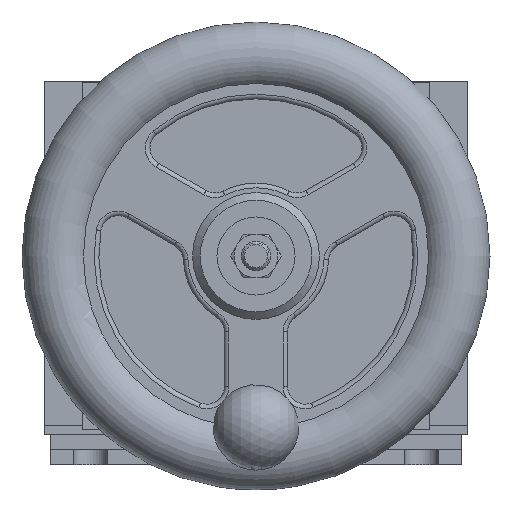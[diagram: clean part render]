
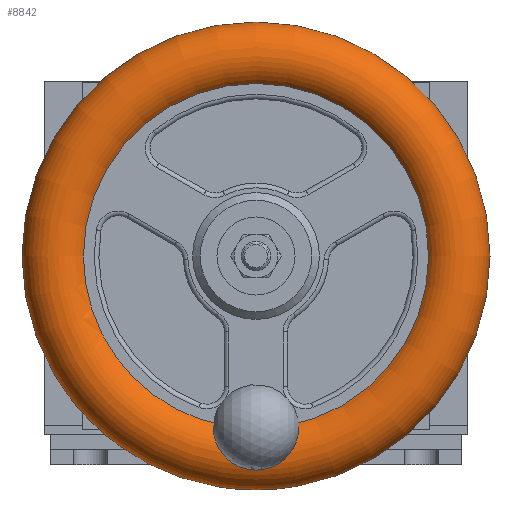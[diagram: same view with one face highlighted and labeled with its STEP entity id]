
A CAD part, front view. The second image highlights one B-rep face of the part: STEP entity #8842.
In plain terms, the highlighted toroidal (fillet/blend) face has major radius 65.088 mm and minor radius 11.113 mm.
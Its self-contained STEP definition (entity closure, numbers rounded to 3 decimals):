
#43=TOROIDAL_SURFACE('',#9719,65.088,11.113);
#96=B_SPLINE_CURVE_WITH_KNOTS('',3,(#14802,#14803,#14804,#14805),
 .UNSPECIFIED.,.F.,.F.,(4,4),(0.,0.001),
 .UNSPECIFIED.);
#97=B_SPLINE_CURVE_WITH_KNOTS('',3,(#14806,#14807,#14808,#14809,#14810,
#14811,#14812,#14813,#14814,#14815,#14816,#14817),.UNSPECIFIED.,.F.,.F.,
(4,2,2,2,2,4),(1.653,1.862,2.071,2.278,
2.486,2.579),.UNSPECIFIED.);
#98=B_SPLINE_CURVE_WITH_KNOTS('',3,(#14819,#14820,#14821,#14822,#14823,
#14824,#14825,#14826,#14827,#14828,#14829,#14830),.UNSPECIFIED.,.F.,.F.,
(4,2,2,2,2,4),(4.039,4.131,4.339,4.547,
4.756,4.965),.UNSPECIFIED.);
#99=B_SPLINE_CURVE_WITH_KNOTS('',3,(#14832,#14833,#14834,#14835),
 .UNSPECIFIED.,.F.,.F.,(4,4),(0.015,0.015),
 .UNSPECIFIED.);
#973=FACE_OUTER_BOUND('',#1582,.T.);
#1582=EDGE_LOOP('',(#7049,#7050,#7051,#7052,#7053,#7054,#7055,#7056,#7057,
#7058,#7059,#7060));
#3330=CIRCLE('',#9675,65.088);
#3332=CIRCLE('',#9678,65.088);
#3362=CIRCLE('',#9717,65.088);
#3363=CIRCLE('',#9718,65.088);
#3364=CIRCLE('',#9720,11.113);
#3365=CIRCLE('',#9721,56.198);
#3366=CIRCLE('',#9722,56.198);
#4090=VERTEX_POINT('',#14704);
#4092=VERTEX_POINT('',#14707);
#4094=VERTEX_POINT('',#14713);
#4127=VERTEX_POINT('',#14791);
#4128=VERTEX_POINT('',#14793);
#4129=VERTEX_POINT('',#14797);
#4130=VERTEX_POINT('',#14799);
#4131=VERTEX_POINT('',#14801);
#4132=VERTEX_POINT('',#14818);
#4133=VERTEX_POINT('',#14831);
#5106=EDGE_CURVE('',#4092,#4090,#3330,.T.);
#5108=EDGE_CURVE('',#4090,#4094,#3332,.T.);
#5145=EDGE_CURVE('',#4127,#4128,#3362,.T.);
#5146=EDGE_CURVE('',#4128,#4127,#3363,.T.);
#5147=EDGE_CURVE('',#4127,#4129,#3364,.T.);
#5148=EDGE_CURVE('',#4129,#4130,#3365,.T.);
#5149=EDGE_CURVE('',#4131,#4130,#96,.T.);
#5150=EDGE_CURVE('',#4094,#4131,#97,.T.);
#5151=EDGE_CURVE('',#4132,#4092,#98,.T.);
#5152=EDGE_CURVE('',#4133,#4132,#99,.T.);
#5153=EDGE_CURVE('',#4133,#4129,#3366,.T.);
#7049=ORIENTED_EDGE('',*,*,#5146,.F.);
#7050=ORIENTED_EDGE('',*,*,#5145,.F.);
#7051=ORIENTED_EDGE('',*,*,#5147,.T.);
#7052=ORIENTED_EDGE('',*,*,#5148,.T.);
#7053=ORIENTED_EDGE('',*,*,#5149,.F.);
#7054=ORIENTED_EDGE('',*,*,#5150,.F.);
#7055=ORIENTED_EDGE('',*,*,#5108,.F.);
#7056=ORIENTED_EDGE('',*,*,#5106,.F.);
#7057=ORIENTED_EDGE('',*,*,#5151,.F.);
#7058=ORIENTED_EDGE('',*,*,#5152,.F.);
#7059=ORIENTED_EDGE('',*,*,#5153,.T.);
#7060=ORIENTED_EDGE('',*,*,#5147,.F.);
#8842=ADVANCED_FACE('',(#973),#43,.T.);
#9675=AXIS2_PLACEMENT_3D('',#14709,#11707,#11708);
#9678=AXIS2_PLACEMENT_3D('',#14714,#11713,#11714);
#9717=AXIS2_PLACEMENT_3D('',#14794,#11798,#11799);
#9718=AXIS2_PLACEMENT_3D('',#14795,#11800,#11801);
#9719=AXIS2_PLACEMENT_3D('',#14796,#11802,#11803);
#9720=AXIS2_PLACEMENT_3D('',#14798,#11804,#11805);
#9721=AXIS2_PLACEMENT_3D('',#14800,#11806,#11807);
#9722=AXIS2_PLACEMENT_3D('',#14836,#11808,#11809);
#11707=DIRECTION('center_axis',(0.,-1.,0.));
#11708=DIRECTION('ref_axis',(-1.,0.,0.));
#11713=DIRECTION('center_axis',(0.,-1.,0.));
#11714=DIRECTION('ref_axis',(-1.,0.,0.));
#11798=DIRECTION('center_axis',(0.,1.,0.));
#11799=DIRECTION('ref_axis',(1.,0.,0.));
#11800=DIRECTION('center_axis',(0.,1.,0.));
#11801=DIRECTION('ref_axis',(1.,0.,0.));
#11802=DIRECTION('center_axis',(0.,1.,0.));
#11803=DIRECTION('ref_axis',(1.,0.,0.));
#11804=DIRECTION('center_axis',(0.,0.,
1.));
#11805=DIRECTION('ref_axis',(-1.,0.,0.));
#11806=DIRECTION('center_axis',(0.,1.,0.));
#11807=DIRECTION('ref_axis',(1.,0.,0.));
#11808=DIRECTION('center_axis',(0.,1.,0.));
#11809=DIRECTION('ref_axis',(1.,0.,0.));
#14704=CARTESIAN_POINT('',(0.,-210.5,-7.088));
#14707=CARTESIAN_POINT('',(-9.287,-210.5,-6.422));
#14709=CARTESIAN_POINT('Origin',(0.,-210.5,58.));
#14713=CARTESIAN_POINT('',(9.287,-210.5,-6.422));
#14714=CARTESIAN_POINT('Origin',(0.,-210.5,58.));
#14791=CARTESIAN_POINT('',(-65.087,-188.275,58.));
#14793=CARTESIAN_POINT('',(65.088,-188.275,58.));
#14794=CARTESIAN_POINT('Origin',(0.,-188.275,58.));
#14795=CARTESIAN_POINT('Origin',(0.,-188.275,58.));
#14796=CARTESIAN_POINT('Origin',(0.,-199.388,58.));
#14797=CARTESIAN_POINT('',(-56.197,-206.055,58.));
#14798=CARTESIAN_POINT('Origin',(-65.087,-199.388,58.));
#14799=CARTESIAN_POINT('',(9.279,-206.055,2.574));
#14800=CARTESIAN_POINT('Origin',(0.,-206.055,58.));
#14801=CARTESIAN_POINT('',(9.287,-206.523,2.199));
#14802=CARTESIAN_POINT('Ctrl Pts',(9.287,-206.523,2.199));
#14803=CARTESIAN_POINT('Ctrl Pts',(9.287,-206.37,2.329));
#14804=CARTESIAN_POINT('Ctrl Pts',(9.284,-206.214,2.454));
#14805=CARTESIAN_POINT('Ctrl Pts',(9.279,-206.055,2.574));
#14806=CARTESIAN_POINT('Ctrl Pts',(9.287,-210.5,-6.422));
#14807=CARTESIAN_POINT('Ctrl Pts',(9.287,-210.5,-5.726));
#14808=CARTESIAN_POINT('Ctrl Pts',(9.287,-210.432,-4.966));
#14809=CARTESIAN_POINT('Ctrl Pts',(9.287,-210.138,-3.477));
#14810=CARTESIAN_POINT('Ctrl Pts',(9.287,-209.912,-2.749));
#14811=CARTESIAN_POINT('Ctrl Pts',(9.287,-209.384,-1.464));
#14812=CARTESIAN_POINT('Ctrl Pts',(9.287,-209.033,-0.79));
#14813=CARTESIAN_POINT('Ctrl Pts',(9.287,-208.198,0.47));
#14814=CARTESIAN_POINT('Ctrl Pts',(9.287,-207.714,1.056));
#14815=CARTESIAN_POINT('Ctrl Pts',(9.287,-207.009,1.767));
#14816=CARTESIAN_POINT('Ctrl Pts',(9.287,-206.773,1.987));
#14817=CARTESIAN_POINT('Ctrl Pts',(9.287,-206.523,2.199));
#14818=CARTESIAN_POINT('',(-9.287,-206.523,2.199));
#14819=CARTESIAN_POINT('Ctrl Pts',(-9.287,-206.523,
2.199));
#14820=CARTESIAN_POINT('Ctrl Pts',(-9.287,-206.773,
1.987));
#14821=CARTESIAN_POINT('Ctrl Pts',(-9.287,-207.009,
1.767));
#14822=CARTESIAN_POINT('Ctrl Pts',(-9.287,-207.714,
1.056));
#14823=CARTESIAN_POINT('Ctrl Pts',(-9.287,-208.198,
0.47));
#14824=CARTESIAN_POINT('Ctrl Pts',(-9.287,-209.033,
-0.79));
#14825=CARTESIAN_POINT('Ctrl Pts',(-9.287,-209.384,
-1.464));
#14826=CARTESIAN_POINT('Ctrl Pts',(-9.287,-209.912,
-2.749));
#14827=CARTESIAN_POINT('Ctrl Pts',(-9.287,-210.138,
-3.477));
#14828=CARTESIAN_POINT('Ctrl Pts',(-9.287,-210.432,
-4.966));
#14829=CARTESIAN_POINT('Ctrl Pts',(-9.287,-210.5,
-5.726));
#14830=CARTESIAN_POINT('Ctrl Pts',(-9.287,-210.5,
-6.422));
#14831=CARTESIAN_POINT('',(-9.279,-206.055,2.574));
#14832=CARTESIAN_POINT('Ctrl Pts',(-9.279,-206.055,
2.574));
#14833=CARTESIAN_POINT('Ctrl Pts',(-9.284,-206.214,
2.454));
#14834=CARTESIAN_POINT('Ctrl Pts',(-9.287,-206.37,
2.329));
#14835=CARTESIAN_POINT('Ctrl Pts',(-9.287,-206.523,
2.199));
#14836=CARTESIAN_POINT('Origin',(0.,-206.055,58.));
